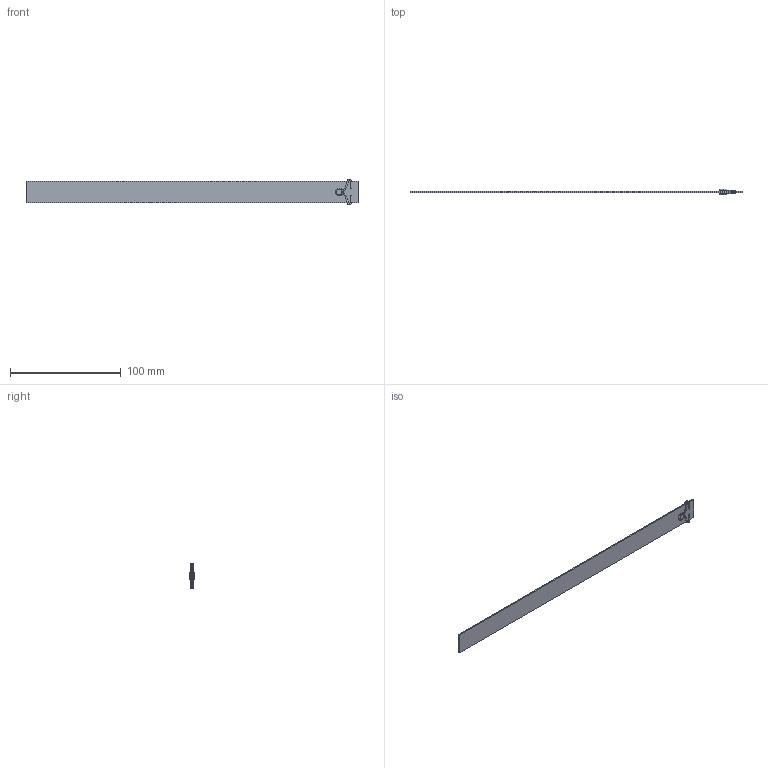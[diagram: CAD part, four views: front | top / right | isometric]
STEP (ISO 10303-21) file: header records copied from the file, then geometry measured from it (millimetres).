
FILE_DESCRIPTION (( 'STEP AP203' ), '1' );
FILE_NAME ('RLA-20x300.STEP', '2015-12-10T16:17:50', ( 'Balzi' ), ( '' ), 'SwSTEP 2.0', 'SolidWorks 2015', '' );
FILE_SCHEMA (( 'CONFIG_CONTROL_DESIGN' ));
Length unit declared in the file: millimetre
Products named in the file (1): RLA-20x300
Bounding box: 300 x 5 x 22.99 mm (x, y, z)
Volume: 6085.9 mm3; surface area: 13043.6 mm2
Topology: 5 solids, 5 shells, 84 faces, 162 edges, 88 vertices
Faces by surface type: torus 40, cylinder 30, plane 14
Entity records: 2199 total; most frequent: DIRECTION 452, CARTESIAN_POINT 335, ORIENTED_EDGE 324, AXIS2_PLACEMENT_3D 205, EDGE_CURVE 162, CIRCLE 120, VERTEX_POINT 88, EDGE_LOOP 86
